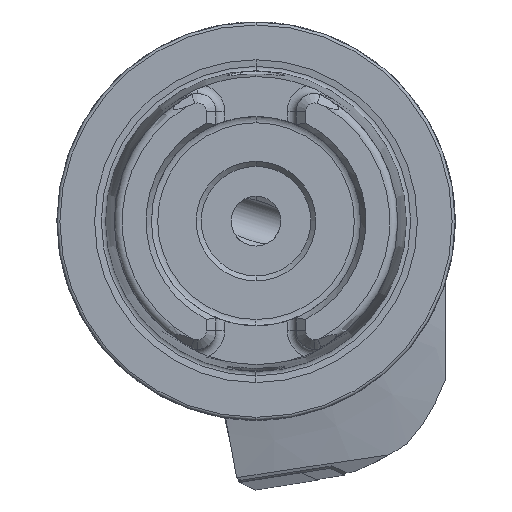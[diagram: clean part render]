
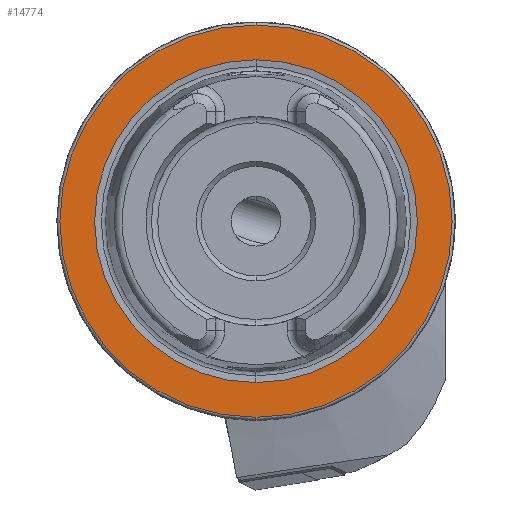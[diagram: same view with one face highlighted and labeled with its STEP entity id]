
A CAD part, left-side view. The second image highlights one B-rep face of the part: STEP entity #14774.
In plain terms, the highlighted planar face has unit normal (-1, 0, 0).
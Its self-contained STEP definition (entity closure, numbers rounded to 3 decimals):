
#35 = CARTESIAN_POINT ( 'NONE',  ( 0., 0., -16.207 ) ) ;
#993 = CARTESIAN_POINT ( 'NONE',  ( 0., 19.7, 0. ) ) ;
#1079 = VERTEX_POINT ( 'NONE', #2959 ) ;
#1102 = VERTEX_POINT ( 'NONE', #35 ) ;
#1440 = CARTESIAN_POINT ( 'NONE',  ( 0., 0., -19.7 ) ) ;
#2332 = ORIENTED_EDGE ( 'NONE', *, *, #4665, .T. ) ;
#2489 = EDGE_CURVE ( 'NONE', #16419, #1102, #11458, .T. ) ;
#2500 = PLANE ( 'NONE',  #14012 ) ;
#2959 = CARTESIAN_POINT ( 'NONE',  ( 0., 0., 19.7 ) ) ;
#2966 = ORIENTED_EDGE ( 'NONE', *, *, #5271, .F. ) ;
#3460 = EDGE_LOOP ( 'NONE', ( #10386, #2966 ) ) ;
#4310 = DIRECTION ( 'NONE',  ( -1., 0., 0. ) ) ;
#4610 = DIRECTION ( 'NONE',  ( -1., 0., 0. ) ) ;
#4665 = EDGE_CURVE ( 'NONE', #1079, #8280, #17404, .T. ) ;
#5271 = EDGE_CURVE ( 'NONE', #1102, #16419, #5915, .T. ) ;
#5616 = AXIS2_PLACEMENT_3D ( 'NONE', #17812, #9461, #6569 ) ;
#5734 = FACE_BOUND ( 'NONE', #3460, .T. ) ;
#5915 = CIRCLE ( 'NONE', #5616, 16.207 ) ;
#6569 = DIRECTION ( 'NONE',  ( 0., 0., 1. ) ) ;
#7105 = DIRECTION ( 'NONE',  ( -1., 0., 0. ) ) ;
#8219 = ORIENTED_EDGE ( 'NONE', *, *, #11813, .T. ) ;
#8280 = VERTEX_POINT ( 'NONE', #1440 ) ;
#9461 = DIRECTION ( 'NONE',  ( -1., 0., 0. ) ) ;
#10252 = DIRECTION ( 'NONE',  ( 0., 0., 1. ) ) ;
#10386 = ORIENTED_EDGE ( 'NONE', *, *, #2489, .F. ) ;
#10590 = DIRECTION ( 'NONE',  ( 0., 0., -1. ) ) ;
#10680 = AXIS2_PLACEMENT_3D ( 'NONE', #14360, #4610, #10252 ) ;
#11458 = CIRCLE ( 'NONE', #14470, 16.207 ) ;
#11813 = EDGE_CURVE ( 'NONE', #8280, #1079, #12970, .T. ) ;
#12056 = DIRECTION ( 'NONE',  ( 1., 0., 0. ) ) ;
#12482 = DIRECTION ( 'NONE',  ( 0., 0., 1. ) ) ;
#12970 = CIRCLE ( 'NONE', #14799, 19.7 ) ;
#13846 = EDGE_LOOP ( 'NONE', ( #2332, #8219 ) ) ;
#14012 = AXIS2_PLACEMENT_3D ( 'NONE', #993, #12056, #10590 ) ;
#14360 = CARTESIAN_POINT ( 'NONE',  ( 0., 0., 0. ) ) ;
#14470 = AXIS2_PLACEMENT_3D ( 'NONE', #15450, #7105, #12482 ) ;
#14774 = ADVANCED_FACE ( 'NONE', ( #5734, #16326 ), #2500, .F. ) ;
#14799 = AXIS2_PLACEMENT_3D ( 'NONE', #15179, #4310, #16803 ) ;
#15179 = CARTESIAN_POINT ( 'NONE',  ( 0., 0., 0. ) ) ;
#15450 = CARTESIAN_POINT ( 'NONE',  ( 0., 0., 0. ) ) ;
#15902 = CARTESIAN_POINT ( 'NONE',  ( 0., 0., 16.207 ) ) ;
#16326 = FACE_OUTER_BOUND ( 'NONE', #13846, .T. ) ;
#16419 = VERTEX_POINT ( 'NONE', #15902 ) ;
#16803 = DIRECTION ( 'NONE',  ( 0., 0., 1. ) ) ;
#17404 = CIRCLE ( 'NONE', #10680, 19.7 ) ;
#17812 = CARTESIAN_POINT ( 'NONE',  ( 0., 0., 0. ) ) ;
